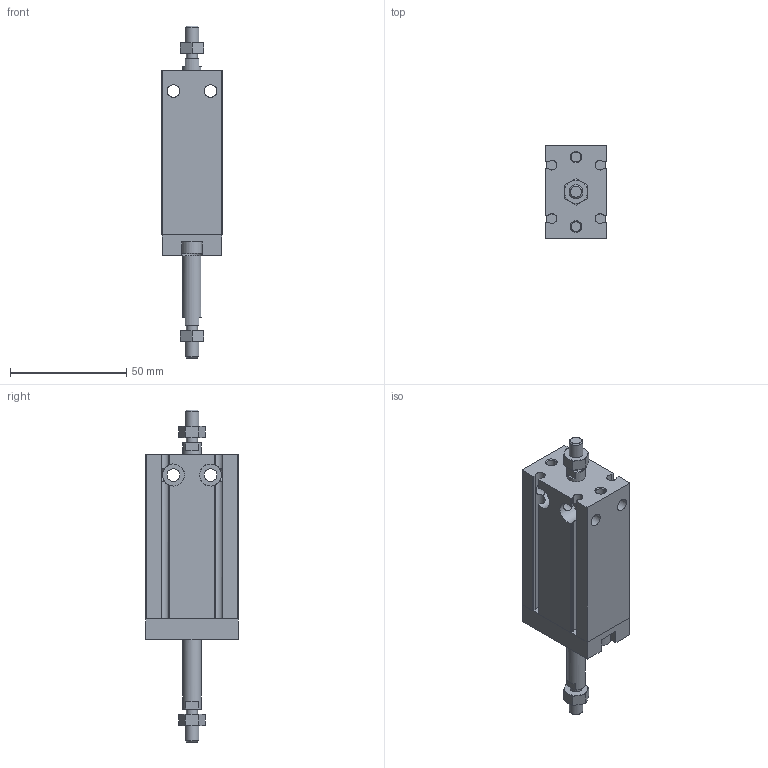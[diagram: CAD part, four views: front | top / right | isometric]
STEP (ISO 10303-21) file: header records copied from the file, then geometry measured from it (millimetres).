
FILE_DESCRIPTION( ( 'STEP AP214' ), '1' );
FILE_NAME( 'C:/Users/EMC02301/Desktop/EU图纸/EUD20X25-0-S.stp', '2026-08-12T00:41:45', ( 'License CC BY-ND 4.0' ), ( 'CADENAS' ), ' ', 'PARTsolutions', ' ' );
FILE_SCHEMA( ( 'AUTOMOTIVE_DESIGN { 1 0 10303 214 1 1 1 1 }' ) );
Length unit declared in the file: millimetre
Products named in the file (5): EUD20X25-0-S()(0); _EUD20X25-0-S()(0-dummy); _EUD20X25--S()(-body); _EUD20X25--S(0-rod); _EU_BOARD_20
Assembly tree (4 placements, depth 2):
  EUD20X25-0-S()(0)
    _EUD20X25-0-S()(0-dummy)
    _EUD20X25--S()(-body)
    _EUD20X25--S(0-rod)
    _EU_BOARD_20
Bounding box: 26 x 40 x 143 mm (x, y, z)
Volume: 71080.8 mm3; surface area: 28645.3 mm2
Topology: 3 solids, 3 shells, 199 faces, 498 edges, 322 vertices
Faces by surface type: plane 94, cylinder 67, cone 36, torus 2
Full cylindrical faces by diameter (mm): 4.134 x6, 4.773 x2, 5 x2, 5.5 x8, 6 x2, 8 x5, 8.5 x2, 9.5 x4, 20 x2
Entity records: 8072 total; most frequent: CARTESIAN_POINT 1921, DIRECTION 908, ORIENTED_EDGE 876, EDGE_CURVE 438, AXIS2_PLACEMENT_3D 358, VERTEX_POINT 306, EDGE_LOOP 280, FACE_OUTER_BOUND 234
